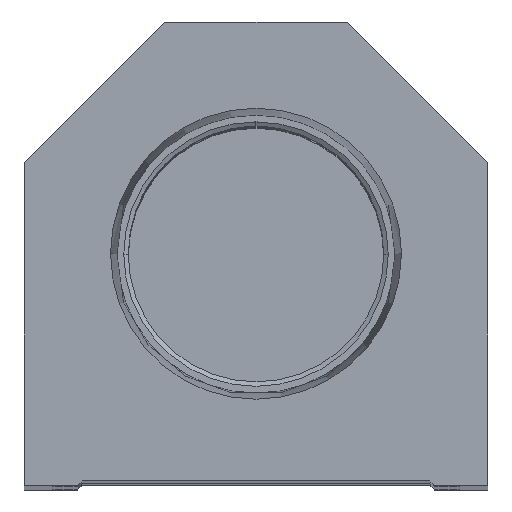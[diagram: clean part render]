
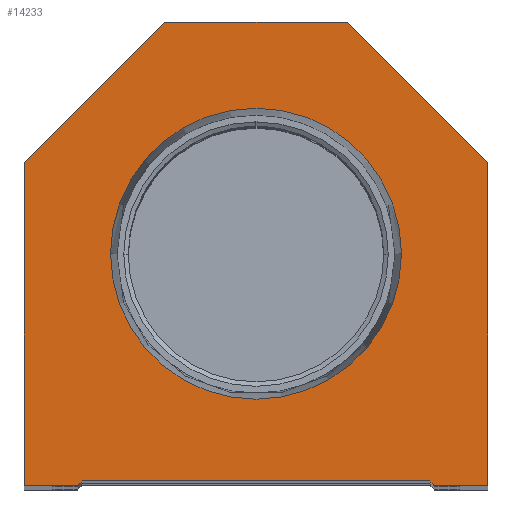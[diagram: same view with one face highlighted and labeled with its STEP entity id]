
A CAD part, top view. The second image highlights one B-rep face of the part: STEP entity #14233.
In plain terms, the highlighted planar face has unit normal (0, 0, 1).
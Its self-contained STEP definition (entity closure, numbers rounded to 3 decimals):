
#34 = EDGE_CURVE ( 'NONE', #7027, #22124, #14032, .T. ) ;
#222 = VECTOR ( 'NONE', #8040, 1000. ) ;
#398 = EDGE_CURVE ( 'NONE', #10664, #10027, #20348, .T. ) ;
#433 = CARTESIAN_POINT ( 'NONE',  ( -25.4, 0., 0. ) ) ;
#878 = VERTEX_POINT ( 'NONE', #16511 ) ;
#1066 = DIRECTION ( 'NONE',  ( 0.707, -0.707, 0. ) ) ;
#1713 = CARTESIAN_POINT ( 'NONE',  ( 25.4, 35.4, 0. ) ) ;
#2022 = LINE ( 'NONE', #17975, #10869 ) ;
#2211 = VECTOR ( 'NONE', #21503, 1000. ) ;
#2284 = DIRECTION ( 'NONE',  ( 1., 0., 0. ) ) ;
#2287 = CARTESIAN_POINT ( 'NONE',  ( -9.775, 9.775, 0. ) ) ;
#2537 = ORIENTED_EDGE ( 'NONE', *, *, #7673, .T. ) ;
#2763 = CARTESIAN_POINT ( 'NONE',  ( 10., 50.8, 0. ) ) ;
#2988 = CARTESIAN_POINT ( 'NONE',  ( -25.4, 0., 0. ) ) ;
#3052 = DIRECTION ( 'NONE',  ( -0.707, -0.707, 0. ) ) ;
#3091 = VERTEX_POINT ( 'NONE', #21414 ) ;
#3170 = LINE ( 'NONE', #17195, #20916 ) ;
#3195 = CARTESIAN_POINT ( 'NONE',  ( 19.05, 0.5, 0. ) ) ;
#3596 = VERTEX_POINT ( 'NONE', #12994 ) ;
#3648 = FACE_BOUND ( 'NONE', #15389, .T. ) ;
#3813 = ORIENTED_EDGE ( 'NONE', *, *, #19802, .T. ) ;
#4026 = DIRECTION ( 'NONE',  ( 1., 0., 0. ) ) ;
#4118 = ORIENTED_EDGE ( 'NONE', *, *, #11878, .T. ) ;
#4138 = CARTESIAN_POINT ( 'NONE',  ( -19.05, 0.5, 0. ) ) ;
#4231 = CARTESIAN_POINT ( 'NONE',  ( 10., 50.8, 0. ) ) ;
#4371 = AXIS2_PLACEMENT_3D ( 'NONE', #24557, #18856, #15405 ) ;
#4531 = VECTOR ( 'NONE', #1066, 1000. ) ;
#4627 = ORIENTED_EDGE ( 'NONE', *, *, #18603, .T. ) ;
#5407 = EDGE_CURVE ( 'NONE', #7287, #21235, #7213, .T. ) ;
#5625 = CARTESIAN_POINT ( 'NONE',  ( -19.05, 0.5, 0. ) ) ;
#5898 = DIRECTION ( 'NONE',  ( -0.707, 0.707, 0. ) ) ;
#6701 = VECTOR ( 'NONE', #19421, 1000. ) ;
#7027 = VERTEX_POINT ( 'NONE', #9107 ) ;
#7213 = LINE ( 'NONE', #13072, #4531 ) ;
#7287 = VERTEX_POINT ( 'NONE', #3195 ) ;
#7614 = PLANE ( 'NONE',  #4371 ) ;
#7654 = ORIENTED_EDGE ( 'NONE', *, *, #11842, .T. ) ;
#7673 = EDGE_CURVE ( 'NONE', #878, #16784, #3170, .T. ) ;
#8040 = DIRECTION ( 'NONE',  ( 0.707, 0.707, 0. ) ) ;
#8488 = EDGE_CURVE ( 'NONE', #10027, #7027, #16006, .T. ) ;
#8796 = EDGE_LOOP ( 'NONE', ( #14449, #21400, #13346, #24362, #4627, #2537, #7654, #4118, #3813, #15070 ) ) ;
#8808 = EDGE_CURVE ( 'NONE', #3091, #21638, #24640, .T. ) ;
#9107 = CARTESIAN_POINT ( 'NONE',  ( -19.55, 0., 0. ) ) ;
#9250 = VECTOR ( 'NONE', #4026, 1000. ) ;
#9617 = LINE ( 'NONE', #25030, #16073 ) ;
#9704 = CARTESIAN_POINT ( 'NONE',  ( 0., 25.4, 0. ) ) ;
#10027 = VERTEX_POINT ( 'NONE', #2988 ) ;
#10664 = VERTEX_POINT ( 'NONE', #16321 ) ;
#10842 = DIRECTION ( 'NONE',  ( 1., 0., 0. ) ) ;
#10869 = VECTOR ( 'NONE', #2284, 1000. ) ;
#11842 = EDGE_CURVE ( 'NONE', #16784, #21095, #9617, .T. ) ;
#11870 = DIRECTION ( 'NONE',  ( 1., 0., 0. ) ) ;
#11878 = EDGE_CURVE ( 'NONE', #21095, #3596, #17416, .T. ) ;
#12028 = AXIS2_PLACEMENT_3D ( 'NONE', #22517, #18868, #10842 ) ;
#12994 = CARTESIAN_POINT ( 'NONE',  ( -10., 50.8, 0. ) ) ;
#13072 = CARTESIAN_POINT ( 'NONE',  ( 9.775, 9.775, 0. ) ) ;
#13257 = CIRCLE ( 'NONE', #24631, 15.947 ) ;
#13346 = ORIENTED_EDGE ( 'NONE', *, *, #13593, .T. ) ;
#13593 = EDGE_CURVE ( 'NONE', #22124, #7287, #15751, .T. ) ;
#13746 = ORIENTED_EDGE ( 'NONE', *, *, #20771, .F. ) ;
#14032 = LINE ( 'NONE', #2287, #222 ) ;
#14233 = ADVANCED_FACE ( 'NONE', ( #3648, #22633 ), #7614, .T. ) ;
#14449 = ORIENTED_EDGE ( 'NONE', *, *, #8488, .T. ) ;
#15070 = ORIENTED_EDGE ( 'NONE', *, *, #398, .T. ) ;
#15389 = EDGE_LOOP ( 'NONE', ( #20568, #13746 ) ) ;
#15405 = DIRECTION ( 'NONE',  ( 1., 0., 0. ) ) ;
#15751 = LINE ( 'NONE', #4138, #9250 ) ;
#16006 = LINE ( 'NONE', #18071, #2211 ) ;
#16073 = VECTOR ( 'NONE', #5898, 1000. ) ;
#16321 = CARTESIAN_POINT ( 'NONE',  ( -25.4, 35.4, 0. ) ) ;
#16511 = CARTESIAN_POINT ( 'NONE',  ( 25.4, 0., 0. ) ) ;
#16544 = DIRECTION ( 'NONE',  ( 0., -1., 0. ) ) ;
#16784 = VERTEX_POINT ( 'NONE', #1713 ) ;
#17195 = CARTESIAN_POINT ( 'NONE',  ( 25.4, 0., 0. ) ) ;
#17416 = LINE ( 'NONE', #4231, #6701 ) ;
#17975 = CARTESIAN_POINT ( 'NONE',  ( 19.05, 0., 0. ) ) ;
#18071 = CARTESIAN_POINT ( 'NONE',  ( -19.05, 0., 0. ) ) ;
#18321 = CARTESIAN_POINT ( 'NONE',  ( -15.947, 25.4, 0. ) ) ;
#18567 = CARTESIAN_POINT ( 'NONE',  ( 19.55, 0., 0. ) ) ;
#18603 = EDGE_CURVE ( 'NONE', #21235, #878, #2022, .T. ) ;
#18622 = VECTOR ( 'NONE', #16544, 1000. ) ;
#18856 = DIRECTION ( 'NONE',  ( 0., 0., 1. ) ) ;
#18868 = DIRECTION ( 'NONE',  ( 0., 0., 1. ) ) ;
#19421 = DIRECTION ( 'NONE',  ( -1., 0., 0. ) ) ;
#19802 = EDGE_CURVE ( 'NONE', #3596, #10664, #20492, .T. ) ;
#20348 = LINE ( 'NONE', #433, #18622 ) ;
#20492 = LINE ( 'NONE', #22289, #22889 ) ;
#20568 = ORIENTED_EDGE ( 'NONE', *, *, #8808, .F. ) ;
#20771 = EDGE_CURVE ( 'NONE', #21638, #3091, #13257, .T. ) ;
#20916 = VECTOR ( 'NONE', #24934, 1000. ) ;
#21095 = VERTEX_POINT ( 'NONE', #2763 ) ;
#21235 = VERTEX_POINT ( 'NONE', #18567 ) ;
#21400 = ORIENTED_EDGE ( 'NONE', *, *, #34, .T. ) ;
#21414 = CARTESIAN_POINT ( 'NONE',  ( 15.947, 25.4, 0. ) ) ;
#21503 = DIRECTION ( 'NONE',  ( 1., 0., 0. ) ) ;
#21638 = VERTEX_POINT ( 'NONE', #18321 ) ;
#22124 = VERTEX_POINT ( 'NONE', #5625 ) ;
#22289 = CARTESIAN_POINT ( 'NONE',  ( -25.4, 35.4, 0. ) ) ;
#22517 = CARTESIAN_POINT ( 'NONE',  ( 0., 25.4, 0. ) ) ;
#22633 = FACE_OUTER_BOUND ( 'NONE', #8796, .T. ) ;
#22889 = VECTOR ( 'NONE', #3052, 1000. ) ;
#23285 = DIRECTION ( 'NONE',  ( 0., 0., 1. ) ) ;
#24362 = ORIENTED_EDGE ( 'NONE', *, *, #5407, .T. ) ;
#24557 = CARTESIAN_POINT ( 'NONE',  ( 0., 0., 0. ) ) ;
#24631 = AXIS2_PLACEMENT_3D ( 'NONE', #9704, #23285, #11870 ) ;
#24640 = CIRCLE ( 'NONE', #12028, 15.947 ) ;
#24934 = DIRECTION ( 'NONE',  ( 0., 1., 0. ) ) ;
#25030 = CARTESIAN_POINT ( 'NONE',  ( 25.4, 35.4, 0. ) ) ;
